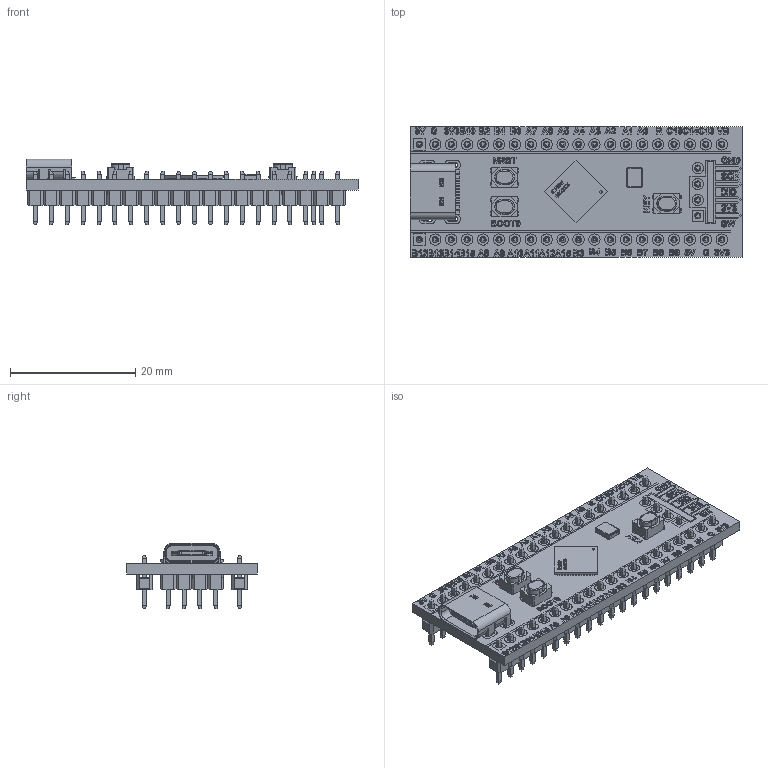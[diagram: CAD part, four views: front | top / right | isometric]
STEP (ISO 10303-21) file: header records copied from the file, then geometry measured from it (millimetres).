
FILE_DESCRIPTION (( 'STEP AP214' ), '1' );
FILE_NAME ('blackpill v2.0 swi.STEP', '2022-08-22T13:04:42', ( '' ), ( '' ), 'SwSTEP 2.0', 'SolidWorks 2019', '' );
FILE_SCHEMA (( 'AUTOMOTIVE_DESIGN' ));
Length unit declared in the file: millimetre
Products named in the file (178): DIY_black_pill-113.step; DIY_black_pill-149.step; DIY_black_pill-45.step; DIY_black_pill-147.step; DIY_black_pill-6.step; DIY_black_pill-131.step; USB Type C Port (SMD Type).step; DIY_black_pill-107.step; DIY_black_pill-71.step; DIY_black_pill-127.step; DIY_black_pill-157.step; DIY_black_pill-109.step; DIY_black_pill-62.step; DIY_black_pill-33.step; DIY_black_pill-136.step; DIY_black_pill-94.step; DIY_black_pill-164.step; DIY_black_pill-52.step; DIY_black_pill-129.step; DIY_black_pill-159.step; DIY_black_pill-16.step; DIY_black_pill-115.step; DIY_black_pill-40.step; DIY_black_pill-140.step; DIY_black_pill-91.step; 1x4 Male Pin Header; DIY_black_pill-125.step; DIY_black_pill-49.step; DIY_black_pill-20.step; DIY_black_pill-60.step; DIY_black_pill-70.step; DIY_black_pill-153.step; DIY_black_pill-21.step; DIY_black_pill-139.step; DIY_black_pill-99.step; DIY_black_pill-162.step; DIY_black_pill-66.step; DIY_black_pill-80.step; blackpill v2.0.step; DIY_black_pill-59.step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
Assembly tree (179 placements, depth 3):
  blackpill v2.0 swi
    blackpill v2.0.step
      USB Type C Port (SMD Type).step
      PTS810 SJK 250 SMTR LFS--3DModel-STEP-1.step  x2
      PTS810 SJK 250 SMTR LFS--3DModel-STEP-1 v2(Mirror).step
      STM32F411CEU6.step
      ECS-135.60-12-33Q-JES-TR.step
      DIY_black_pill.step
      DIY_black_pill-0.step
      DIY_black_pill-1.step
      DIY_black_pill-2.step
      DIY_black_pill-3.step
      DIY_black_pill-4.step
      DIY_black_pill-5.step
      DIY_black_pill-6.step
      DIY_black_pill-7.step
      DIY_black_pill-8.step
      DIY_black_pill-9.step
      DIY_black_pill-10.step
      DIY_black_pill-11.step
      DIY_black_pill-12.step
      DIY_black_pill-13.step
      DIY_black_pill-14.step
      DIY_black_pill-15.step
      DIY_black_pill-16.step
      DIY_black_pill-17.step
      DIY_black_pill-18.step
      DIY_black_pill-19.step
      DIY_black_pill-20.step
      DIY_black_pill-21.step
      DIY_black_pill-22.step
      DIY_black_pill-23.step
      DIY_black_pill-24.step
      DIY_black_pill-25.step
      DIY_black_pill-26.step
      DIY_black_pill-27.step
      DIY_black_pill-28.step
      DIY_black_pill-29.step
      DIY_black_pill-30.step
      DIY_black_pill-31.step
      DIY_black_pill-32.step
      DIY_black_pill-33.step
      DIY_black_pill-34.step
      DIY_black_pill-35.step
      DIY_black_pill-36.step
      DIY_black_pill-37.step
      DIY_black_pill-38.step
      DIY_black_pill-39.step
      DIY_black_pill-40.step
      DIY_black_pill-41.step
      DIY_black_pill-42.step
      DIY_black_pill-43.step
      DIY_black_pill-44.step
      DIY_black_pill-45.step
      DIY_black_pill-46.step
      DIY_black_pill-47.step
      DIY_black_pill-48.step
      DIY_black_pill-49.step
      DIY_black_pill-50.step
      DIY_black_pill-51.step
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Bounding box: 53 x 20.9 x 10.45 mm (x, y, z)
Volume: 2777.3 mm3; surface area: 7640.5 mm2
Topology: 367 solids, 367 shells, 6902 faces, 17615 edges, 11552 vertices
Faces by surface type: plane 4360, bspline 1697, cylinder 811, torus 20, cone 8, sphere 6
Entity records: 205038 total; most frequent: CARTESIAN_POINT 60519, ORIENTED_EDGE 30434, DIRECTION 22297, EDGE_CURVE 15217, LINE 10203, VECTOR 10203, VERTEX_POINT 10028, EDGE_LOOP 6477
